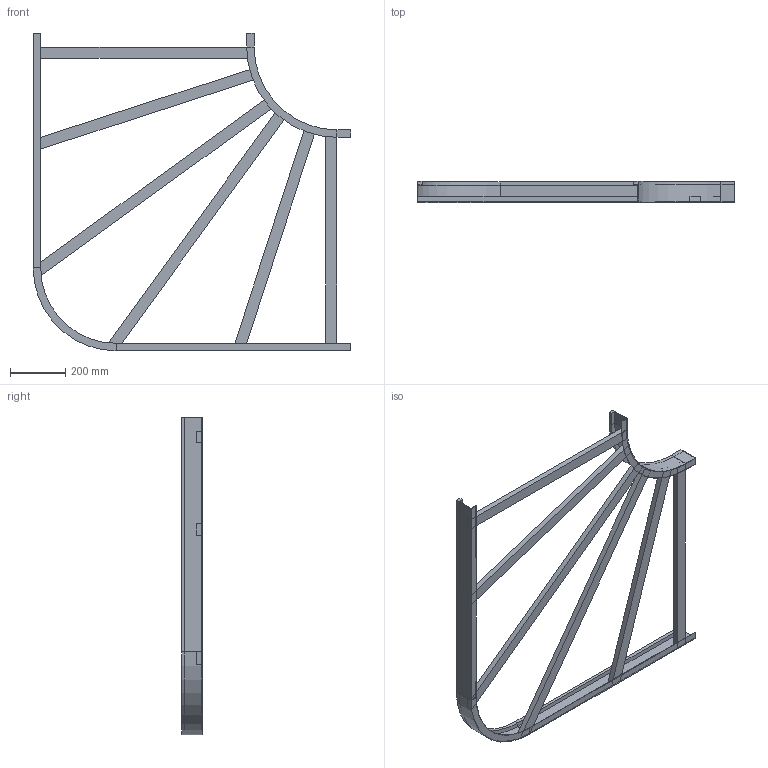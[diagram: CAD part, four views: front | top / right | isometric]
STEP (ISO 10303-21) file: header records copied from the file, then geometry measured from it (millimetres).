
FILE_DESCRIPTION (( 'STEP AP214' ), '1' );
FILE_NAME ('B2_10B3C800.step', '2025-02-21T15:27:13', ( '' ), ( '' ), 'SwSTEP 2.0', 'SolidWorks 2023', '' );
FILE_SCHEMA (( 'AUTOMOTIVE_DESIGN' ));
Length unit declared in the file: millimetre
Products named in the file (6): B2_LONGH.ESTERNO 90°_H75_R300+800; TRAVERSINO_900_SCANTONATO; TRAVERSINO_800; TRAVERSINO_1130_SCANTONATO; B2_10B3C800; B2_LONGH.INTERNO 90°_H75_R300
Assembly tree (8 placements, depth 2):
  B2_10B3C800
    B2_LONGH.INTERNO 90°_H75_R300
    B2_LONGH.ESTERNO 90°_H75_R300+800
    TRAVERSINO_800  x2
    TRAVERSINO_900_SCANTONATO  x2
    TRAVERSINO_1130_SCANTONATO  x2
Bounding box: 1150 x 75 x 1150 mm (x, y, z)
Volume: 5476314.4 mm3; surface area: 1316343.5 mm2
Topology: 8 solids, 8 shells, 88 faces, 184 edges, 112 vertices
Faces by surface type: plane 80, cylinder 8
Entity records: 2023 total; most frequent: DIRECTION 326, CARTESIAN_POINT 317, ORIENTED_EDGE 296, EDGE_CURVE 148, VECTOR 132, LINE 132, AXIS2_PLACEMENT_3D 97, VERTEX_POINT 88
